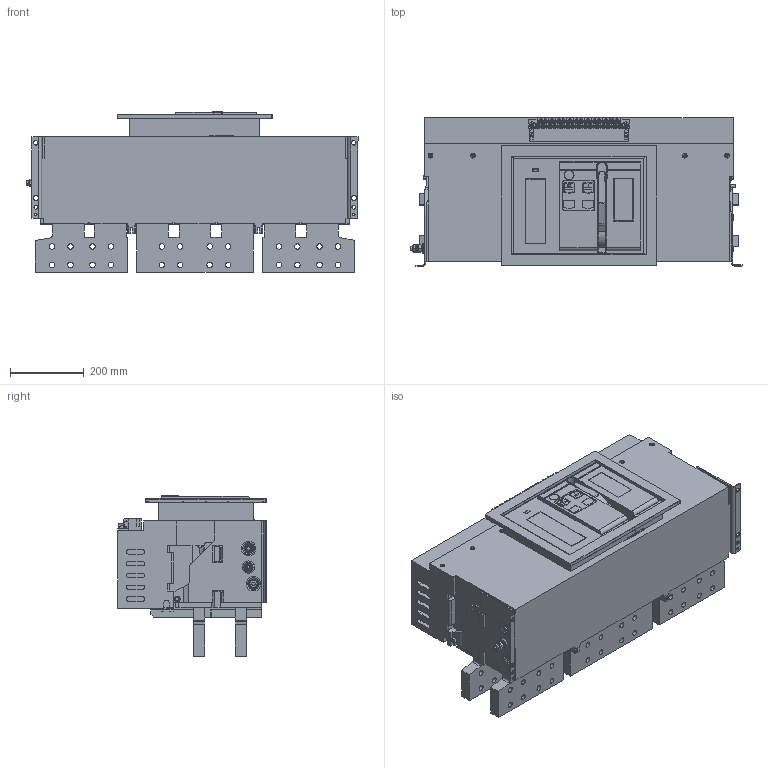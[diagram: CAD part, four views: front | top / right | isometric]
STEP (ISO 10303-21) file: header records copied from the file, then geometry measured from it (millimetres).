
FILE_DESCRIPTION (( 'STEP AP214' ), '1' );
FILE_NAME ('TGW1N-6300 F 3P 4900A-6300.STEP', '2026-04-28T08:49:00', ( '' ), ( '' ), 'SwSTEP 2.0', 'SolidWorks 2024', '' );
FILE_SCHEMA (( 'AUTOMOTIVE_DESIGN' ));
Length unit declared in the file: millimetre
Products named in the file (6): TGW1N-6300 F 3P 4900A-6300; 8TZD_156_6063.stp; TENGEN_Рамка_3200-6300_Fixed.stp; TENGEN_Рамка_3200-6300_Fixed; TENGEN_TGW1N-6300_3P_4900A-6300_F.stp; 8TZD_087_6007.stp
Assembly tree (5 placements, depth 4):
  TGW1N-6300 F 3P 4900A-6300
    TENGEN_TGW1N-6300_3P_4900A-6300_F.stp
    TENGEN_Рамка_3200-6300_Fixed
      TENGEN_Рамка_3200-6300_Fixed.stp
        8TZD_087_6007.stp
        8TZD_156_6063.stp
Bounding box: 901.06 x 402.03 x 435.8 mm (x, y, z)
Volume: 86576083.4 mm3; surface area: 2385600.7 mm2
Topology: 3 solids, 5 shells, 3537 faces, 9619 edges, 6177 vertices
Faces by surface type: plane 2490, cylinder 805, bspline 120, sphere 60, cone 34, torus 28
Entity records: 122993 total; most frequent: CARTESIAN_POINT 36468, ORIENTED_EDGE 18938, DIRECTION 16384, EDGE_CURVE 9469, VERTEX_POINT 6177, LINE 5948, VECTOR 5948, AXIS2_PLACEMENT_3D 5218
